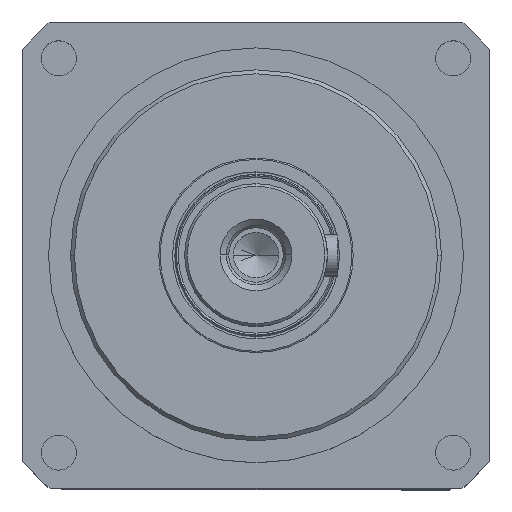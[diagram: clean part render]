
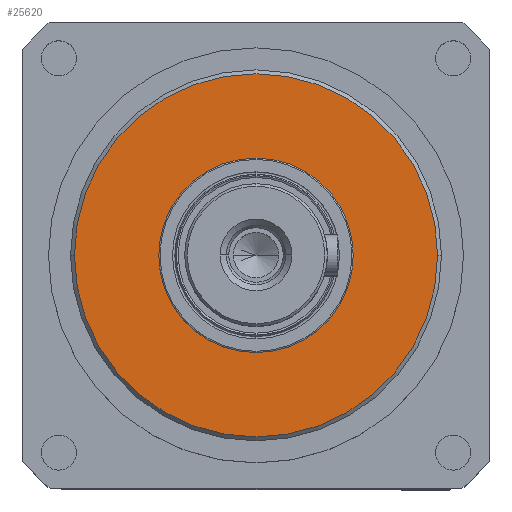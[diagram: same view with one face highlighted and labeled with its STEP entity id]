
A CAD part, top view. The second image highlights one B-rep face of the part: STEP entity #25620.
In plain terms, the highlighted planar face has unit normal (0, 0, 1).
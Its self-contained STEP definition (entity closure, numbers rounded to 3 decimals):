
#1161 = DIRECTION ( 'NONE',  ( 0., 0., -1. ) ) ;
#1847 = VERTEX_POINT ( 'NONE', #2606 ) ;
#2606 = CARTESIAN_POINT ( 'NONE',  ( 70., 0., 0. ) ) ;
#2799 = DIRECTION ( 'NONE',  ( 0., 0., 1. ) ) ;
#5571 = ORIENTED_EDGE ( 'NONE', *, *, #26958, .F. ) ;
#6884 = CIRCLE ( 'NONE', #19994, 70. ) ;
#6892 = EDGE_CURVE ( 'NONE', #1847, #21561, #31445, .T. ) ;
#7492 = VERTEX_POINT ( 'NONE', #8095 ) ;
#8095 = CARTESIAN_POINT ( 'NONE',  ( -37.5, 0., 0. ) ) ;
#9541 = AXIS2_PLACEMENT_3D ( 'NONE', #22444, #2799, #25731 ) ;
#11098 = CIRCLE ( 'NONE', #9541, 37.5 ) ;
#11450 = FACE_BOUND ( 'NONE', #12535, .T. ) ;
#12098 = VERTEX_POINT ( 'NONE', #33296 ) ;
#12535 = EDGE_LOOP ( 'NONE', ( #22593, #5571 ) ) ;
#14565 = FACE_OUTER_BOUND ( 'NONE', #21714, .T. ) ;
#15211 = DIRECTION ( 'NONE',  ( 0., 0., 1. ) ) ;
#15321 = AXIS2_PLACEMENT_3D ( 'NONE', #35491, #35413, #35138 ) ;
#15478 = CARTESIAN_POINT ( 'NONE',  ( -70., 0., 0. ) ) ;
#15931 = AXIS2_PLACEMENT_3D ( 'NONE', #34677, #15211, #37770 ) ;
#16597 = ORIENTED_EDGE ( 'NONE', *, *, #6892, .F. ) ;
#19442 = DIRECTION ( 'NONE',  ( -1., 0., 0. ) ) ;
#19597 = AXIS2_PLACEMENT_3D ( 'NONE', #32350, #38532, #19442 ) ;
#19994 = AXIS2_PLACEMENT_3D ( 'NONE', #20738, #1161, #24044 ) ;
#20738 = CARTESIAN_POINT ( 'NONE',  ( 0., 0., 0. ) ) ;
#21561 = VERTEX_POINT ( 'NONE', #15478 ) ;
#21714 = EDGE_LOOP ( 'NONE', ( #33839, #16597 ) ) ;
#22444 = CARTESIAN_POINT ( 'NONE',  ( 0., 0., 0. ) ) ;
#22593 = ORIENTED_EDGE ( 'NONE', *, *, #25134, .F. ) ;
#24044 = DIRECTION ( 'NONE',  ( -1., 0., 0. ) ) ;
#25134 = EDGE_CURVE ( 'NONE', #12098, #7492, #37331, .T. ) ;
#25620 = ADVANCED_FACE ( 'b', ( #11450, #14565 ), #29090, .F. ) ;
#25731 = DIRECTION ( 'NONE',  ( 1., 0., 0. ) ) ;
#26958 = EDGE_CURVE ( 'NONE', #7492, #12098, #11098, .T. ) ;
#29090 = PLANE ( 'NONE',  #19597 ) ;
#31445 = CIRCLE ( 'NONE', #15321, 70. ) ;
#32350 = CARTESIAN_POINT ( 'NONE',  ( 0., 70., 0. ) ) ;
#33296 = CARTESIAN_POINT ( 'NONE',  ( 37.5, 0., 0. ) ) ;
#33839 = ORIENTED_EDGE ( 'NONE', *, *, #34840, .F. ) ;
#34677 = CARTESIAN_POINT ( 'NONE',  ( 0., 0., 0. ) ) ;
#34840 = EDGE_CURVE ( 'NONE', #21561, #1847, #6884, .T. ) ;
#35138 = DIRECTION ( 'NONE',  ( -1., 0., 0. ) ) ;
#35413 = DIRECTION ( 'NONE',  ( 0., 0., -1. ) ) ;
#35491 = CARTESIAN_POINT ( 'NONE',  ( 0., 0., 0. ) ) ;
#37331 = CIRCLE ( 'NONE', #15931, 37.5 ) ;
#37770 = DIRECTION ( 'NONE',  ( 1., 0., 0. ) ) ;
#38532 = DIRECTION ( 'NONE',  ( 0., 0., -1. ) ) ;
